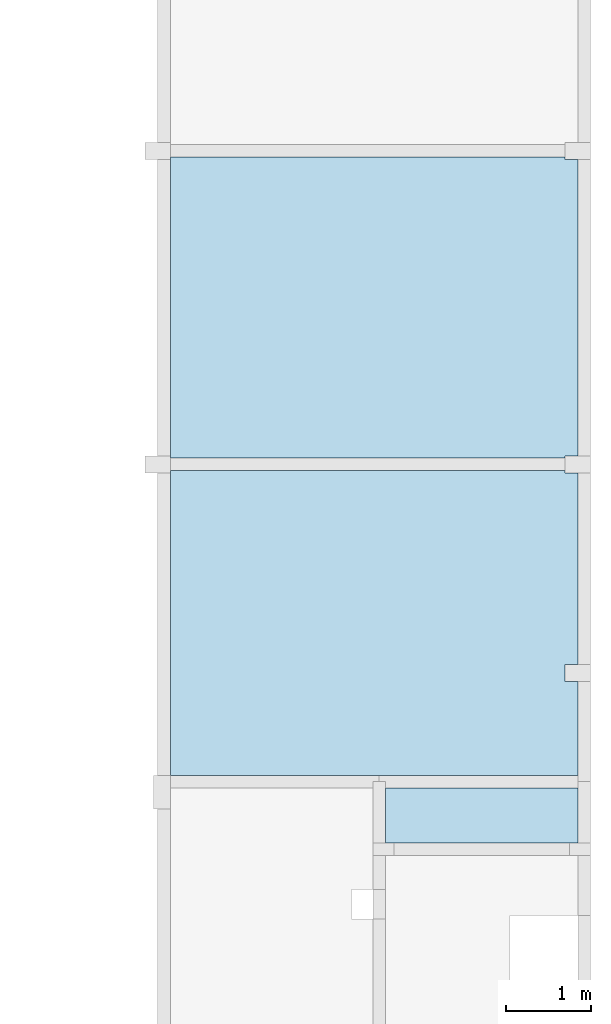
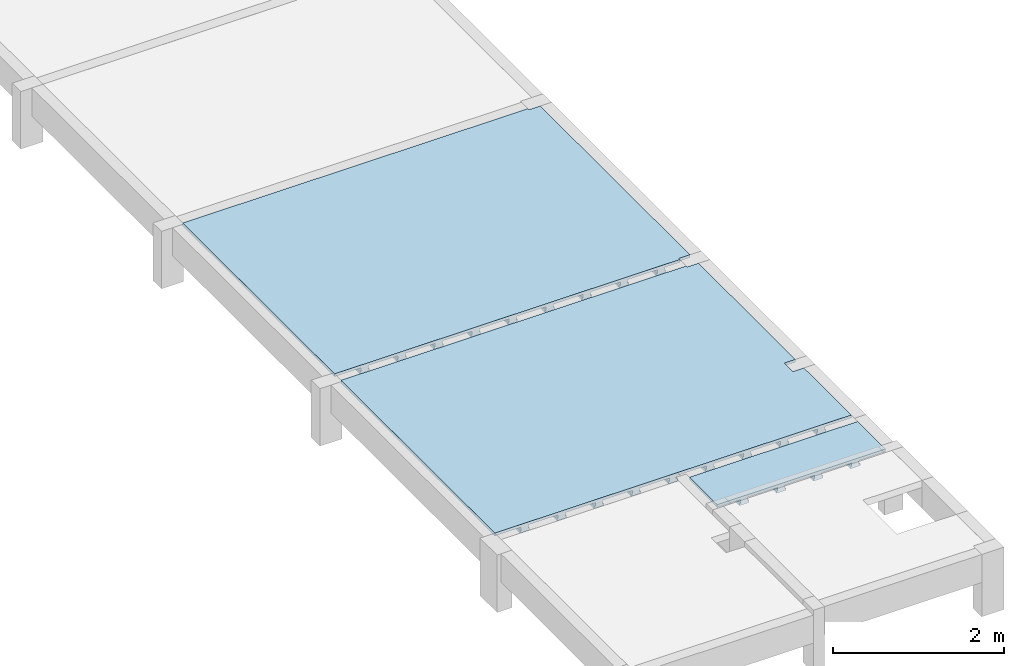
# One storey, part 2 of 3: 3 slabs.
"""IFC4 building model written with IfcOpenShell, lengths in centimetres."""

from ifc_helpers import new_model, si_unit, derived_unit, frame, origin_with_axes, place, context, project, spatial, polyline, outline, extrude, faceted_brep, material, element, save


model = new_model("IFC4")

# Units and contexts
model_context = context("Model", 3, precision=1e-05, world=origin_with_axes(), identifier="Body")
ifc_project = project(units=[si_unit("LENGTHUNIT", "METRE", prefix="CENTI"), si_unit("VOLUMEUNIT", "CUBIC_METRE"), si_unit("AREAUNIT", "SQUARE_METRE"), si_unit("POWERUNIT", "WATT"), si_unit("LUMINOUSFLUXUNIT", "LUMEN"), si_unit("ELECTRICCURRENTUNIT", "AMPERE"), si_unit("PRESSUREUNIT", "PASCAL", prefix="KILO"), si_unit("MASSUNIT", "GRAM", prefix="KILO"), si_unit("PLANEANGLEUNIT", "RADIAN"), derived_unit("VOLUMETRICFLOWRATEUNIT", [(si_unit("LENGTHUNIT", "METRE"), 3), (si_unit("TIMEUNIT", "SECOND"), -1)])], contexts=[model_context])

# Site, building, storey
site_placement = place(None, origin_with_axes())
site = spatial("IfcSite", under=ifc_project, at=site_placement)
building_placement = place(site_placement, frame((0.0, 0.0, -295.0)))
building = spatial("IfcBuilding", under=site, at=building_placement)
placement_1 = place(building_placement, origin_with_axes())
placement_2 = place(placement_1, frame((0.0, 0.0, 101.0), z_axis=(0.0, 0.0, 1.0), x_axis=(1.0, 0.0, 0.0)))
placement_3 = place(placement_2, frame((0.0, 0.0, 204.0), z_axis=(0.0, 0.0, 1.0), x_axis=(1.0, 0.0, 0.0)))
placement_4 = place(placement_3, frame((0.0, 0.0, 292.0), z_axis=(0.0, 0.0, 1.0), x_axis=(1.0, 0.0, 0.0)))
placement_5 = place(placement_4, frame((0.0, 0.0, 302.0), z_axis=(0.0, 0.0, 1.0), x_axis=(1.0, 0.0, 0.0)))
placement_6 = place(placement_5, frame((0.0, 0.0, 326.0), z_axis=(0.0, 0.0, 1.0), x_axis=(1.0, 0.0, 0.0)))
storey_placement = place(placement_6, frame((0.0, 0.0, 124.0), z_axis=(0.0, 0.0, 1.0), x_axis=(1.0, 0.0, 0.0)))
storey = spatial("IfcBuildingStorey", under=building, at=storey_placement, Name="TELHADO CINE", CompositionType="ELEMENT", Elevation=1054.0)

# Slabs
ifc_material = material(Name="Concreto")
slab_1_placement = place(storey_placement, frame((3761.245, -5953.5495, -42.0), z_axis=(0.0, 0.0, 1.0), x_axis=(1.0, 0.0, 0.0)))
element("IfcSlab", 1, at=slab_1_placement, inside=storey, material=ifc_material, Name="L403", PredefinedType="FLOOR", context=model_context, shape_type="SolidModel", body=[
    extrude(outline(polyline([(225.515, -175.0), (240.515, -175.0), (240.514, 174.999), (225.515, 174.999), (225.515, 177.499), (-240.515, 177.5), (-240.514, -177.499), (225.514, -177.499), (225.515, -175.0), (225.515, -175.0)])), frame((0.0, -0.0005, -4.0), z_axis=(0.0, 0.0, 1.0), x_axis=(1.0, 0.0, 0.0)), (0.0, 0.0, 1.0), 4.0),
    faceted_brep([(-5.0, -177.4995, -12.0), (-5.0, 177.499, -12.0), (5.0, 177.499, -12.0), (5.0, -177.4995, -12.0), (5.0, -177.4995, -4.0), (5.0, 177.499, -4.0), (-5.0, 177.499, -4.0), (-5.0, -177.4995, -4.0)], [[[0, 1, 2, 3]], [[4, 5, 6, 7]], [[4, 3, 5]], [[3, 2, 5]], [[5, 2, 6]], [[2, 1, 6]], [[6, 1, 7]], [[1, 0, 7]], [[7, 0, 4]], [[0, 3, 4]]]),
    faceted_brep([(-6.5, -177.4995, -12.0), (-6.5, 177.499, -12.0), (-5.0, 177.499, -12.0), (-5.0, -177.4995, -12.0), (-5.0, -177.4995, -9.0), (-5.0, 177.499, -9.0), (-6.5, 177.499, -9.0), (-6.5, -177.4995, -9.0)], [[[0, 1, 2, 3]], [[4, 5, 6, 7]], [[4, 3, 5]], [[3, 2, 5]], [[5, 2, 6]], [[2, 1, 6]], [[6, 1, 7]], [[1, 0, 7]], [[7, 0, 4]], [[0, 3, 4]]]),
    faceted_brep([(5.0, -177.4995, -12.0), (5.0, 177.499, -12.0), (6.5, 177.499, -12.0), (6.5, -177.4995, -12.0), (6.5, -177.4995, -9.0), (6.5, 177.499, -9.0), (5.0, 177.499, -9.0), (5.0, -177.4995, -9.0)], [[[0, 1, 2, 3]], [[4, 5, 6, 7]], [[4, 3, 5]], [[3, 2, 5]], [[5, 2, 6]], [[2, 1, 6]], [[6, 1, 7]], [[1, 0, 7]], [[7, 0, 4]], [[0, 3, 4]]]),
    faceted_brep([(-55.0, -177.4995, -12.0), (-55.0, 177.499, -12.0), (-45.0, 177.499, -12.0), (-45.0, -177.4995, -12.0), (-45.0, -177.4995, -4.0), (-45.0, 177.499, -4.0), (-55.0, 177.499, -4.0), (-55.0, -177.4995, -4.0)], [[[0, 1, 2, 3]], [[4, 5, 6, 7]], [[4, 3, 5]], [[3, 2, 5]], [[5, 2, 6]], [[2, 1, 6]], [[6, 1, 7]], [[1, 0, 7]], [[7, 0, 4]], [[0, 3, 4]]]),
    faceted_brep([(-56.5, -177.4995, -12.0), (-56.5, 177.499, -12.0), (-55.0, 177.499, -12.0), (-55.0, -177.4995, -12.0), (-55.0, -177.4995, -9.0), (-55.0, 177.499, -9.0), (-56.5, 177.499, -9.0), (-56.5, -177.4995, -9.0)], [[[0, 1, 2, 3]], [[4, 5, 6, 7]], [[4, 3, 5]], [[3, 2, 5]], [[5, 2, 6]], [[2, 1, 6]], [[6, 1, 7]], [[1, 0, 7]], [[7, 0, 4]], [[0, 3, 4]]]),
    faceted_brep([(-45.0, -177.4995, -12.0), (-45.0, 177.499, -12.0), (-43.5, 177.499, -12.0), (-43.5, -177.4995, -12.0), (-43.5, -177.4995, -9.0), (-43.5, 177.499, -9.0), (-45.0, 177.499, -9.0), (-45.0, -177.4995, -9.0)], [[[0, 1, 2, 3]], [[4, 5, 6, 7]], [[4, 3, 5]], [[3, 2, 5]], [[5, 2, 6]], [[2, 1, 6]], [[6, 1, 7]], [[1, 0, 7]], [[7, 0, 4]], [[0, 3, 4]]]),
    faceted_brep([(-105.0, -177.4995, -12.0), (-105.0, 177.499, -12.0), (-95.0, 177.499, -12.0), (-95.0, -177.4995, -12.0), (-95.0, -177.4995, -4.0), (-95.0, 177.499, -4.0), (-105.0, 177.499, -4.0), (-105.0, -177.4995, -4.0)], [[[0, 1, 2, 3]], [[4, 5, 6, 7]], [[4, 3, 5]], [[3, 2, 5]], [[5, 2, 6]], [[2, 1, 6]], [[6, 1, 7]], [[1, 0, 7]], [[7, 0, 4]], [[0, 3, 4]]]),
    faceted_brep([(-106.5, -177.4995, -12.0), (-106.5, 177.499, -12.0), (-105.0, 177.499, -12.0), (-105.0, -177.4995, -12.0), (-105.0, -177.4995, -9.0), (-105.0, 177.499, -9.0), (-106.5, 177.499, -9.0), (-106.5, -177.4995, -9.0)], [[[0, 1, 2, 3]], [[4, 5, 6, 7]], [[4, 3, 5]], [[3, 2, 5]], [[5, 2, 6]], [[2, 1, 6]], [[6, 1, 7]], [[1, 0, 7]], [[7, 0, 4]], [[0, 3, 4]]]),
    faceted_brep([(-95.0, -177.4995, -12.0), (-95.0, 177.499, -12.0), (-93.5, 177.499, -12.0), (-93.5, -177.4995, -12.0), (-93.5, -177.4995, -9.0), (-93.5, 177.499, -9.0), (-95.0, 177.499, -9.0), (-95.0, -177.4995, -9.0)], [[[0, 1, 2, 3]], [[4, 5, 6, 7]], [[4, 3, 5]], [[3, 2, 5]], [[5, 2, 6]], [[2, 1, 6]], [[6, 1, 7]], [[1, 0, 7]], [[7, 0, 4]], [[0, 3, 4]]]),
    faceted_brep([(-155.0, -177.4995, -12.0), (-155.0, 177.499, -12.0), (-145.0, 177.499, -12.0), (-145.0, -177.4995, -12.0), (-145.0, -177.4995, -4.0), (-145.0, 177.499, -4.0), (-155.0, 177.499, -4.0), (-155.0, -177.4995, -4.0)], [[[0, 1, 2, 3]], [[4, 5, 6, 7]], [[4, 3, 5]], [[3, 2, 5]], [[5, 2, 6]], [[2, 1, 6]], [[6, 1, 7]], [[1, 0, 7]], [[7, 0, 4]], [[0, 3, 4]]]),
    faceted_brep([(-156.5, -177.4995, -12.0), (-156.5, 177.499, -12.0), (-155.0, 177.499, -12.0), (-155.0, -177.4995, -12.0), (-155.0, -177.4995, -9.0), (-155.0, 177.499, -9.0), (-156.5, 177.499, -9.0), (-156.5, -177.4995, -9.0)], [[[0, 1, 2, 3]], [[4, 5, 6, 7]], [[4, 3, 5]], [[3, 2, 5]], [[5, 2, 6]], [[2, 1, 6]], [[6, 1, 7]], [[1, 0, 7]], [[7, 0, 4]], [[0, 3, 4]]]),
    faceted_brep([(-145.0, -177.4995, -12.0), (-145.0, 177.499, -12.0), (-143.5, 177.499, -12.0), (-143.5, -177.4995, -12.0), (-143.5, -177.4995, -9.0), (-143.5, 177.499, -9.0), (-145.0, 177.499, -9.0), (-145.0, -177.4995, -9.0)], [[[0, 1, 2, 3]], [[4, 5, 6, 7]], [[4, 3, 5]], [[3, 2, 5]], [[5, 2, 6]], [[2, 1, 6]], [[6, 1, 7]], [[1, 0, 7]], [[7, 0, 4]], [[0, 3, 4]]]),
    faceted_brep([(-205.0, -177.4995, -12.0), (-205.0, 177.499, -12.0), (-195.0, 177.499, -12.0), (-195.0, -177.4995, -12.0), (-195.0, -177.4995, -4.0), (-195.0, 177.499, -4.0), (-205.0, 177.499, -4.0), (-205.0, -177.4995, -4.0)], [[[0, 1, 2, 3]], [[4, 5, 6, 7]], [[4, 3, 5]], [[3, 2, 5]], [[5, 2, 6]], [[2, 1, 6]], [[6, 1, 7]], [[1, 0, 7]], [[7, 0, 4]], [[0, 3, 4]]]),
    faceted_brep([(-206.5, -177.4995, -12.0), (-206.5, 177.499, -12.0), (-205.0, 177.499, -12.0), (-205.0, -177.4995, -12.0), (-205.0, -177.4995, -9.0), (-205.0, 177.499, -9.0), (-206.5, 177.499, -9.0), (-206.5, -177.4995, -9.0)], [[[0, 1, 2, 3]], [[4, 5, 6, 7]], [[4, 3, 5]], [[3, 2, 5]], [[5, 2, 6]], [[2, 1, 6]], [[6, 1, 7]], [[1, 0, 7]], [[7, 0, 4]], [[0, 3, 4]]]),
    faceted_brep([(-195.0, -177.4995, -12.0), (-195.0, 177.499, -12.0), (-193.5, 177.499, -12.0), (-193.5, -177.4995, -12.0), (-193.5, -177.4995, -9.0), (-193.5, 177.499, -9.0), (-195.0, 177.499, -9.0), (-195.0, -177.4995, -9.0)], [[[0, 1, 2, 3]], [[4, 5, 6, 7]], [[4, 3, 5]], [[3, 2, 5]], [[5, 2, 6]], [[2, 1, 6]], [[6, 1, 7]], [[1, 0, 7]], [[7, 0, 4]], [[0, 3, 4]]]),
    faceted_brep([(45.0, -177.4995, -12.0), (45.0, 177.499, -12.0), (55.0, 177.499, -12.0), (55.0, -177.4995, -12.0), (55.0, -177.4995, -4.0), (55.0, 177.499, -4.0), (45.0, 177.499, -4.0), (45.0, -177.4995, -4.0)], [[[0, 1, 2, 3]], [[4, 5, 6, 7]], [[4, 3, 5]], [[3, 2, 5]], [[5, 2, 6]], [[2, 1, 6]], [[6, 1, 7]], [[1, 0, 7]], [[7, 0, 4]], [[0, 3, 4]]]),
    faceted_brep([(43.5, -177.4995, -12.0), (43.5, 177.499, -12.0), (45.0, 177.499, -12.0), (45.0, -177.4995, -12.0), (45.0, -177.4995, -9.0), (45.0, 177.499, -9.0), (43.5, 177.499, -9.0), (43.5, -177.4995, -9.0)], [[[0, 1, 2, 3]], [[4, 5, 6, 7]], [[4, 3, 5]], [[3, 2, 5]], [[5, 2, 6]], [[2, 1, 6]], [[6, 1, 7]], [[1, 0, 7]], [[7, 0, 4]], [[0, 3, 4]]]),
    faceted_brep([(55.0, -177.4995, -12.0), (55.0, 177.499, -12.0), (56.5, 177.499, -12.0), (56.5, -177.4995, -12.0), (56.5, -177.4995, -9.0), (56.5, 177.499, -9.0), (55.0, 177.499, -9.0), (55.0, -177.4995, -9.0)], [[[0, 1, 2, 3]], [[4, 5, 6, 7]], [[4, 3, 5]], [[3, 2, 5]], [[5, 2, 6]], [[2, 1, 6]], [[6, 1, 7]], [[1, 0, 7]], [[7, 0, 4]], [[0, 3, 4]]]),
    faceted_brep([(95.0, -177.4995, -12.0), (95.0, 177.499, -12.0), (105.0, 177.499, -12.0), (105.0, -177.4995, -12.0), (105.0, -177.4995, -4.0), (105.0, 177.499, -4.0), (95.0, 177.499, -4.0), (95.0, -177.4995, -4.0)], [[[0, 1, 2, 3]], [[4, 5, 6, 7]], [[4, 3, 5]], [[3, 2, 5]], [[5, 2, 6]], [[2, 1, 6]], [[6, 1, 7]], [[1, 0, 7]], [[7, 0, 4]], [[0, 3, 4]]]),
    faceted_brep([(93.5, -177.4995, -12.0), (93.5, 177.499, -12.0), (95.0, 177.499, -12.0), (95.0, -177.4995, -12.0), (95.0, -177.4995, -9.0), (95.0, 177.499, -9.0), (93.5, 177.499, -9.0), (93.5, -177.4995, -9.0)], [[[0, 1, 2, 3]], [[4, 5, 6, 7]], [[4, 3, 5]], [[3, 2, 5]], [[5, 2, 6]], [[2, 1, 6]], [[6, 1, 7]], [[1, 0, 7]], [[7, 0, 4]], [[0, 3, 4]]]),
    faceted_brep([(105.0, -177.4995, -12.0), (105.0, 177.499, -12.0), (106.5, 177.499, -12.0), (106.5, -177.4995, -12.0), (106.5, -177.4995, -9.0), (106.5, 177.499, -9.0), (105.0, 177.499, -9.0), (105.0, -177.4995, -9.0)], [[[0, 1, 2, 3]], [[4, 5, 6, 7]], [[4, 3, 5]], [[3, 2, 5]], [[5, 2, 6]], [[2, 1, 6]], [[6, 1, 7]], [[1, 0, 7]], [[7, 0, 4]], [[0, 3, 4]]]),
    faceted_brep([(145.0, -177.4995, -12.0), (145.0, 177.499, -12.0), (155.0, 177.499, -12.0), (155.0, -177.4995, -12.0), (155.0, -177.4995, -4.0), (155.0, 177.499, -4.0), (145.0, 177.499, -4.0), (145.0, -177.4995, -4.0)], [[[0, 1, 2, 3]], [[4, 5, 6, 7]], [[4, 3, 5]], [[3, 2, 5]], [[5, 2, 6]], [[2, 1, 6]], [[6, 1, 7]], [[1, 0, 7]], [[7, 0, 4]], [[0, 3, 4]]]),
    faceted_brep([(143.5, -177.4995, -12.0), (143.5, 177.499, -12.0), (145.0, 177.499, -12.0), (145.0, -177.4995, -12.0), (145.0, -177.4995, -9.0), (145.0, 177.499, -9.0), (143.5, 177.499, -9.0), (143.5, -177.4995, -9.0)], [[[0, 1, 2, 3]], [[4, 5, 6, 7]], [[4, 3, 5]], [[3, 2, 5]], [[5, 2, 6]], [[2, 1, 6]], [[6, 1, 7]], [[1, 0, 7]], [[7, 0, 4]], [[0, 3, 4]]]),
    faceted_brep([(155.0, -177.4995, -12.0), (155.0, 177.499, -12.0), (156.5, 177.499, -12.0), (156.5, -177.4995, -12.0), (156.5, -177.4995, -9.0), (156.5, 177.499, -9.0), (155.0, 177.499, -9.0), (155.0, -177.4995, -9.0)], [[[0, 1, 2, 3]], [[4, 5, 6, 7]], [[4, 3, 5]], [[3, 2, 5]], [[5, 2, 6]], [[2, 1, 6]], [[6, 1, 7]], [[1, 0, 7]], [[7, 0, 4]], [[0, 3, 4]]]),
    faceted_brep([(195.0, -177.4995, -12.0), (195.0, 177.499, -12.0), (205.0, 177.499, -12.0), (205.0, -177.4995, -12.0), (205.0, -177.4995, -4.0), (205.0, 177.499, -4.0), (195.0, 177.499, -4.0), (195.0, -177.4995, -4.0)], [[[0, 1, 2, 3]], [[4, 5, 6, 7]], [[4, 3, 5]], [[3, 2, 5]], [[5, 2, 6]], [[2, 1, 6]], [[6, 1, 7]], [[1, 0, 7]], [[7, 0, 4]], [[0, 3, 4]]]),
    faceted_brep([(193.5, -177.4995, -12.0), (193.5, 177.499, -12.0), (195.0, 177.499, -12.0), (195.0, -177.4995, -12.0), (195.0, -177.4995, -9.0), (195.0, 177.499, -9.0), (193.5, 177.499, -9.0), (193.5, -177.4995, -9.0)], [[[0, 1, 2, 3]], [[4, 5, 6, 7]], [[4, 3, 5]], [[3, 2, 5]], [[5, 2, 6]], [[2, 1, 6]], [[6, 1, 7]], [[1, 0, 7]], [[7, 0, 4]], [[0, 3, 4]]]),
    faceted_brep([(205.0, -177.4995, -12.0), (205.0, 177.499, -12.0), (206.5, 177.499, -12.0), (206.5, -177.4995, -12.0), (206.5, -177.4995, -9.0), (206.5, 177.499, -9.0), (205.0, 177.499, -9.0), (205.0, -177.4995, -9.0)], [[[0, 1, 2, 3]], [[4, 5, 6, 7]], [[4, 3, 5]], [[3, 2, 5]], [[5, 2, 6]], [[2, 1, 6]], [[6, 1, 7]], [[1, 0, 7]], [[7, 0, 4]], [[0, 3, 4]]]),
])
slab_2_placement = place(storey_placement, frame((3761.2455, -6325.8, -42.0), z_axis=(0.0, 0.0, 1.0), x_axis=(1.0, 0.0, 0.0)))
element("IfcSlab", 2, at=slab_2_placement, inside=storey, material=ifc_material, Name="L404", PredefinedType="FLOOR", context=model_context, shape_type="SolidModel", body=[
    extrude(outline(polyline([(240.515, -68.849), (225.515, -68.849), (225.515, -48.849), (240.515, -48.85), (240.515, 177.249), (225.515, 177.249), (225.514, 179.749), (-240.514, 179.75), (-240.514, -179.75), (240.514, -179.75), (240.515, -68.849), (240.515, -68.849)])), frame((-0.0005, 0.0, -4.0), z_axis=(0.0, 0.0, 1.0), x_axis=(1.0, 0.0, 0.0)), (0.0, 0.0, 1.0), 4.0),
    faceted_brep([(-5.0005, -179.75, -12.0), (-5.0005, 179.7495, -12.0), (4.9995, 179.7495, -12.0), (4.9995, -179.75, -12.0), (4.9995, -179.75, -4.0), (4.9995, 179.7495, -4.0), (-5.0005, 179.7495, -4.0), (-5.0005, -179.75, -4.0)], [[[0, 1, 2, 3]], [[4, 5, 6, 7]], [[4, 3, 5]], [[3, 2, 5]], [[5, 2, 6]], [[2, 1, 6]], [[6, 1, 7]], [[1, 0, 7]], [[7, 0, 4]], [[0, 3, 4]]]),
    faceted_brep([(-6.5005, -179.75, -12.0), (-6.5005, 179.7495, -12.0), (-5.0005, 179.7495, -12.0), (-5.0005, -179.75, -12.0), (-5.0005, -179.75, -9.0), (-5.0005, 179.7495, -9.0), (-6.5005, 179.7495, -9.0), (-6.5005, -179.75, -9.0)], [[[0, 1, 2, 3]], [[4, 5, 6, 7]], [[4, 3, 5]], [[3, 2, 5]], [[5, 2, 6]], [[2, 1, 6]], [[6, 1, 7]], [[1, 0, 7]], [[7, 0, 4]], [[0, 3, 4]]]),
    faceted_brep([(4.9995, -179.75, -12.0), (4.9995, 179.7495, -12.0), (6.4995, 179.7495, -12.0), (6.4995, -179.75, -12.0), (6.4995, -179.75, -9.0), (6.4995, 179.7495, -9.0), (4.9995, 179.7495, -9.0), (4.9995, -179.75, -9.0)], [[[0, 1, 2, 3]], [[4, 5, 6, 7]], [[4, 3, 5]], [[3, 2, 5]], [[5, 2, 6]], [[2, 1, 6]], [[6, 1, 7]], [[1, 0, 7]], [[7, 0, 4]], [[0, 3, 4]]]),
    faceted_brep([(-55.0005, -179.75, -12.0), (-55.0005, 179.7495, -12.0), (-45.0005, 179.7495, -12.0), (-45.0005, -179.75, -12.0), (-45.0005, -179.75, -4.0), (-45.0005, 179.7495, -4.0), (-55.0005, 179.7495, -4.0), (-55.0005, -179.75, -4.0)], [[[0, 1, 2, 3]], [[4, 5, 6, 7]], [[4, 3, 5]], [[3, 2, 5]], [[5, 2, 6]], [[2, 1, 6]], [[6, 1, 7]], [[1, 0, 7]], [[7, 0, 4]], [[0, 3, 4]]]),
    faceted_brep([(-56.5005, -179.75, -12.0), (-56.5005, 179.7495, -12.0), (-55.0005, 179.7495, -12.0), (-55.0005, -179.75, -12.0), (-55.0005, -179.75, -9.0), (-55.0005, 179.7495, -9.0), (-56.5005, 179.7495, -9.0), (-56.5005, -179.75, -9.0)], [[[0, 1, 2, 3]], [[4, 5, 6, 7]], [[4, 3, 5]], [[3, 2, 5]], [[5, 2, 6]], [[2, 1, 6]], [[6, 1, 7]], [[1, 0, 7]], [[7, 0, 4]], [[0, 3, 4]]]),
    faceted_brep([(-45.0005, -179.75, -12.0), (-45.0005, 179.7495, -12.0), (-43.5005, 179.7495, -12.0), (-43.5005, -179.75, -12.0), (-43.5005, -179.75, -9.0), (-43.5005, 179.7495, -9.0), (-45.0005, 179.7495, -9.0), (-45.0005, -179.75, -9.0)], [[[0, 1, 2, 3]], [[4, 5, 6, 7]], [[4, 3, 5]], [[3, 2, 5]], [[5, 2, 6]], [[2, 1, 6]], [[6, 1, 7]], [[1, 0, 7]], [[7, 0, 4]], [[0, 3, 4]]]),
    faceted_brep([(-105.0005, -179.75, -12.0), (-105.0005, 179.7495, -12.0), (-95.0005, 179.7495, -12.0), (-95.0005, -179.75, -12.0), (-95.0005, -179.75, -4.0), (-95.0005, 179.7495, -4.0), (-105.0005, 179.7495, -4.0), (-105.0005, -179.75, -4.0)], [[[0, 1, 2, 3]], [[4, 5, 6, 7]], [[4, 3, 5]], [[3, 2, 5]], [[5, 2, 6]], [[2, 1, 6]], [[6, 1, 7]], [[1, 0, 7]], [[7, 0, 4]], [[0, 3, 4]]]),
    faceted_brep([(-106.5005, -179.75, -12.0), (-106.5005, 179.7495, -12.0), (-105.0005, 179.7495, -12.0), (-105.0005, -179.75, -12.0), (-105.0005, -179.75, -9.0), (-105.0005, 179.7495, -9.0), (-106.5005, 179.7495, -9.0), (-106.5005, -179.75, -9.0)], [[[0, 1, 2, 3]], [[4, 5, 6, 7]], [[4, 3, 5]], [[3, 2, 5]], [[5, 2, 6]], [[2, 1, 6]], [[6, 1, 7]], [[1, 0, 7]], [[7, 0, 4]], [[0, 3, 4]]]),
    faceted_brep([(-95.0005, -179.75, -12.0), (-95.0005, 179.7495, -12.0), (-93.5005, 179.7495, -12.0), (-93.5005, -179.75, -12.0), (-93.5005, -179.75, -9.0), (-93.5005, 179.7495, -9.0), (-95.0005, 179.7495, -9.0), (-95.0005, -179.75, -9.0)], [[[0, 1, 2, 3]], [[4, 5, 6, 7]], [[4, 3, 5]], [[3, 2, 5]], [[5, 2, 6]], [[2, 1, 6]], [[6, 1, 7]], [[1, 0, 7]], [[7, 0, 4]], [[0, 3, 4]]]),
    faceted_brep([(-155.0005, -179.75, -12.0), (-155.0005, 179.7495, -12.0), (-145.0005, 179.7495, -12.0), (-145.0005, -179.75, -12.0), (-145.0005, -179.75, -4.0), (-145.0005, 179.7495, -4.0), (-155.0005, 179.7495, -4.0), (-155.0005, -179.75, -4.0)], [[[0, 1, 2, 3]], [[4, 5, 6, 7]], [[4, 3, 5]], [[3, 2, 5]], [[5, 2, 6]], [[2, 1, 6]], [[6, 1, 7]], [[1, 0, 7]], [[7, 0, 4]], [[0, 3, 4]]]),
    faceted_brep([(-156.5005, -179.75, -12.0), (-156.5005, 179.7495, -12.0), (-155.0005, 179.7495, -12.0), (-155.0005, -179.75, -12.0), (-155.0005, -179.75, -9.0), (-155.0005, 179.7495, -9.0), (-156.5005, 179.7495, -9.0), (-156.5005, -179.75, -9.0)], [[[0, 1, 2, 3]], [[4, 5, 6, 7]], [[4, 3, 5]], [[3, 2, 5]], [[5, 2, 6]], [[2, 1, 6]], [[6, 1, 7]], [[1, 0, 7]], [[7, 0, 4]], [[0, 3, 4]]]),
    faceted_brep([(-145.0005, -179.75, -12.0), (-145.0005, 179.7495, -12.0), (-143.5005, 179.7495, -12.0), (-143.5005, -179.75, -12.0), (-143.5005, -179.75, -9.0), (-143.5005, 179.7495, -9.0), (-145.0005, 179.7495, -9.0), (-145.0005, -179.75, -9.0)], [[[0, 1, 2, 3]], [[4, 5, 6, 7]], [[4, 3, 5]], [[3, 2, 5]], [[5, 2, 6]], [[2, 1, 6]], [[6, 1, 7]], [[1, 0, 7]], [[7, 0, 4]], [[0, 3, 4]]]),
    faceted_brep([(-205.0005, -179.75, -12.0), (-205.0005, 179.7495, -12.0), (-195.0005, 179.7495, -12.0), (-195.0005, -179.75, -12.0), (-195.0005, -179.75, -4.0), (-195.0005, 179.7495, -4.0), (-205.0005, 179.7495, -4.0), (-205.0005, -179.75, -4.0)], [[[0, 1, 2, 3]], [[4, 5, 6, 7]], [[4, 3, 5]], [[3, 2, 5]], [[5, 2, 6]], [[2, 1, 6]], [[6, 1, 7]], [[1, 0, 7]], [[7, 0, 4]], [[0, 3, 4]]]),
    faceted_brep([(-206.5005, -179.75, -12.0), (-206.5005, 179.7495, -12.0), (-205.0005, 179.7495, -12.0), (-205.0005, -179.75, -12.0), (-205.0005, -179.75, -9.0), (-205.0005, 179.7495, -9.0), (-206.5005, 179.7495, -9.0), (-206.5005, -179.75, -9.0)], [[[0, 1, 2, 3]], [[4, 5, 6, 7]], [[4, 3, 5]], [[3, 2, 5]], [[5, 2, 6]], [[2, 1, 6]], [[6, 1, 7]], [[1, 0, 7]], [[7, 0, 4]], [[0, 3, 4]]]),
    faceted_brep([(-195.0005, -179.75, -12.0), (-195.0005, 179.7495, -12.0), (-193.5005, 179.7495, -12.0), (-193.5005, -179.75, -12.0), (-193.5005, -179.75, -9.0), (-193.5005, 179.7495, -9.0), (-195.0005, 179.7495, -9.0), (-195.0005, -179.75, -9.0)], [[[0, 1, 2, 3]], [[4, 5, 6, 7]], [[4, 3, 5]], [[3, 2, 5]], [[5, 2, 6]], [[2, 1, 6]], [[6, 1, 7]], [[1, 0, 7]], [[7, 0, 4]], [[0, 3, 4]]]),
    faceted_brep([(44.9995, -179.75, -12.0), (44.9995, 179.7495, -12.0), (54.9995, 179.7495, -12.0), (54.9995, -179.75, -12.0), (54.9995, -179.75, -4.0), (54.9995, 179.7495, -4.0), (44.9995, 179.7495, -4.0), (44.9995, -179.75, -4.0)], [[[0, 1, 2, 3]], [[4, 5, 6, 7]], [[4, 3, 5]], [[3, 2, 5]], [[5, 2, 6]], [[2, 1, 6]], [[6, 1, 7]], [[1, 0, 7]], [[7, 0, 4]], [[0, 3, 4]]]),
    faceted_brep([(43.4995, -179.75, -12.0), (43.4995, 179.7495, -12.0), (44.9995, 179.7495, -12.0), (44.9995, -179.75, -12.0), (44.9995, -179.75, -9.0), (44.9995, 179.7495, -9.0), (43.4995, 179.7495, -9.0), (43.4995, -179.75, -9.0)], [[[0, 1, 2, 3]], [[4, 5, 6, 7]], [[4, 3, 5]], [[3, 2, 5]], [[5, 2, 6]], [[2, 1, 6]], [[6, 1, 7]], [[1, 0, 7]], [[7, 0, 4]], [[0, 3, 4]]]),
    faceted_brep([(54.9995, -179.75, -12.0), (54.9995, 179.7495, -12.0), (56.4995, 179.7495, -12.0), (56.4995, -179.75, -12.0), (56.4995, -179.75, -9.0), (56.4995, 179.7495, -9.0), (54.9995, 179.7495, -9.0), (54.9995, -179.75, -9.0)], [[[0, 1, 2, 3]], [[4, 5, 6, 7]], [[4, 3, 5]], [[3, 2, 5]], [[5, 2, 6]], [[2, 1, 6]], [[6, 1, 7]], [[1, 0, 7]], [[7, 0, 4]], [[0, 3, 4]]]),
    faceted_brep([(94.9995, -179.75, -12.0), (94.9995, 179.7495, -12.0), (104.9995, 179.7495, -12.0), (104.9995, -179.75, -12.0), (104.9995, -179.75, -4.0), (104.9995, 179.7495, -4.0), (94.9995, 179.7495, -4.0), (94.9995, -179.75, -4.0)], [[[0, 1, 2, 3]], [[4, 5, 6, 7]], [[4, 3, 5]], [[3, 2, 5]], [[5, 2, 6]], [[2, 1, 6]], [[6, 1, 7]], [[1, 0, 7]], [[7, 0, 4]], [[0, 3, 4]]]),
    faceted_brep([(93.4995, -179.75, -12.0), (93.4995, 179.7495, -12.0), (94.9995, 179.7495, -12.0), (94.9995, -179.75, -12.0), (94.9995, -179.75, -9.0), (94.9995, 179.7495, -9.0), (93.4995, 179.7495, -9.0), (93.4995, -179.75, -9.0)], [[[0, 1, 2, 3]], [[4, 5, 6, 7]], [[4, 3, 5]], [[3, 2, 5]], [[5, 2, 6]], [[2, 1, 6]], [[6, 1, 7]], [[1, 0, 7]], [[7, 0, 4]], [[0, 3, 4]]]),
    faceted_brep([(104.9995, -179.75, -12.0), (104.9995, 179.7495, -12.0), (106.4995, 179.7495, -12.0), (106.4995, -179.75, -12.0), (106.4995, -179.75, -9.0), (106.4995, 179.7495, -9.0), (104.9995, 179.7495, -9.0), (104.9995, -179.75, -9.0)], [[[0, 1, 2, 3]], [[4, 5, 6, 7]], [[4, 3, 5]], [[3, 2, 5]], [[5, 2, 6]], [[2, 1, 6]], [[6, 1, 7]], [[1, 0, 7]], [[7, 0, 4]], [[0, 3, 4]]]),
    faceted_brep([(144.9995, -179.75, -12.0), (144.9995, 179.7495, -12.0), (154.9995, 179.7495, -12.0), (154.9995, -179.75, -12.0), (154.9995, -179.75, -4.0), (154.9995, 179.7495, -4.0), (144.9995, 179.7495, -4.0), (144.9995, -179.75, -4.0)], [[[0, 1, 2, 3]], [[4, 5, 6, 7]], [[4, 3, 5]], [[3, 2, 5]], [[5, 2, 6]], [[2, 1, 6]], [[6, 1, 7]], [[1, 0, 7]], [[7, 0, 4]], [[0, 3, 4]]]),
    faceted_brep([(143.4995, -179.75, -12.0), (143.4995, 179.7495, -12.0), (144.9995, 179.7495, -12.0), (144.9995, -179.75, -12.0), (144.9995, -179.75, -9.0), (144.9995, 179.7495, -9.0), (143.4995, 179.7495, -9.0), (143.4995, -179.75, -9.0)], [[[0, 1, 2, 3]], [[4, 5, 6, 7]], [[4, 3, 5]], [[3, 2, 5]], [[5, 2, 6]], [[2, 1, 6]], [[6, 1, 7]], [[1, 0, 7]], [[7, 0, 4]], [[0, 3, 4]]]),
    faceted_brep([(154.9995, -179.75, -12.0), (154.9995, 179.7495, -12.0), (156.4995, 179.7495, -12.0), (156.4995, -179.75, -12.0), (156.4995, -179.75, -9.0), (156.4995, 179.7495, -9.0), (154.9995, 179.7495, -9.0), (154.9995, -179.75, -9.0)], [[[0, 1, 2, 3]], [[4, 5, 6, 7]], [[4, 3, 5]], [[3, 2, 5]], [[5, 2, 6]], [[2, 1, 6]], [[6, 1, 7]], [[1, 0, 7]], [[7, 0, 4]], [[0, 3, 4]]]),
    faceted_brep([(194.9995, -179.75, -12.0), (194.9995, 179.7495, -12.0), (204.9995, 179.7495, -12.0), (204.9995, -179.75, -12.0), (204.9995, -179.75, -4.0), (204.9995, 179.7495, -4.0), (194.9995, 179.7495, -4.0), (194.9995, -179.75, -4.0)], [[[0, 1, 2, 3]], [[4, 5, 6, 7]], [[4, 3, 5]], [[3, 2, 5]], [[5, 2, 6]], [[2, 1, 6]], [[6, 1, 7]], [[1, 0, 7]], [[7, 0, 4]], [[0, 3, 4]]]),
    faceted_brep([(193.4995, -179.75, -12.0), (193.4995, 179.7495, -12.0), (194.9995, 179.7495, -12.0), (194.9995, -179.75, -12.0), (194.9995, -179.75, -9.0), (194.9995, 179.7495, -9.0), (193.4995, 179.7495, -9.0), (193.4995, -179.75, -9.0)], [[[0, 1, 2, 3]], [[4, 5, 6, 7]], [[4, 3, 5]], [[3, 2, 5]], [[5, 2, 6]], [[2, 1, 6]], [[6, 1, 7]], [[1, 0, 7]], [[7, 0, 4]], [[0, 3, 4]]]),
    faceted_brep([(204.9995, -179.75, -12.0), (204.9995, 179.7495, -12.0), (206.4995, 179.7495, -12.0), (206.4995, -179.75, -12.0), (206.4995, -179.75, -9.0), (206.4995, 179.7495, -9.0), (204.9995, 179.7495, -9.0), (204.9995, -179.75, -9.0)], [[[0, 1, 2, 3]], [[4, 5, 6, 7]], [[4, 3, 5]], [[3, 2, 5]], [[5, 2, 6]], [[2, 1, 6]], [[6, 1, 7]], [[1, 0, 7]], [[7, 0, 4]], [[0, 3, 4]]]),
])
slab_3_placement = place(storey_placement, frame((3888.245, -6552.93, -42.0), z_axis=(0.0, 0.0, 1.0), x_axis=(1.0, 0.0, 0.0)))
element("IfcSlab", 3, at=slab_3_placement, inside=storey, material=ifc_material, Name="L406", PredefinedType="FLOOR", context=model_context, shape_type="SolidModel", body=[
    extrude(outline(polyline([(113.515, -32.379), (113.515, 32.38), (-113.515, 32.379), (-113.514, -32.38), (113.515, -32.379), (113.515, -32.379)])), frame((0.0, 0.0, -4.0), z_axis=(0.0, 0.0, 1.0), x_axis=(1.0, 0.0, 0.0)), (0.0, 0.0, 1.0), 4.0),
    faceted_brep([(-82.0, -32.3795, -12.0), (-82.0, 32.3795, -12.0), (-72.0, 32.3795, -12.0), (-72.0, -32.3795, -12.0), (-72.0, -32.3795, -4.0), (-72.0, 32.3795, -4.0), (-82.0, 32.3795, -4.0), (-82.0, -32.3795, -4.0)], [[[0, 1, 2, 3]], [[4, 5, 6, 7]], [[4, 3, 5]], [[3, 2, 5]], [[5, 2, 6]], [[2, 1, 6]], [[6, 1, 7]], [[1, 0, 7]], [[7, 0, 4]], [[0, 3, 4]]]),
    faceted_brep([(-83.5, -32.3795, -12.0), (-83.5, 32.3795, -12.0), (-82.0, 32.3795, -12.0), (-82.0, -32.3795, -12.0), (-82.0, -32.3795, -9.0), (-82.0, 32.3795, -9.0), (-83.5, 32.3795, -9.0), (-83.5, -32.3795, -9.0)], [[[0, 1, 2, 3]], [[4, 5, 6, 7]], [[4, 3, 5]], [[3, 2, 5]], [[5, 2, 6]], [[2, 1, 6]], [[6, 1, 7]], [[1, 0, 7]], [[7, 0, 4]], [[0, 3, 4]]]),
    faceted_brep([(-72.0, -32.3795, -12.0), (-72.0, 32.3795, -12.0), (-70.5, 32.3795, -12.0), (-70.5, -32.3795, -12.0), (-70.5, -32.3795, -9.0), (-70.5, 32.3795, -9.0), (-72.0, 32.3795, -9.0), (-72.0, -32.3795, -9.0)], [[[0, 1, 2, 3]], [[4, 5, 6, 7]], [[4, 3, 5]], [[3, 2, 5]], [[5, 2, 6]], [[2, 1, 6]], [[6, 1, 7]], [[1, 0, 7]], [[7, 0, 4]], [[0, 3, 4]]]),
    faceted_brep([(-32.0, -32.3795, -12.0), (-32.0, 32.3795, -12.0), (-22.0, 32.3795, -12.0), (-22.0, -32.3795, -12.0), (-22.0, -32.3795, -4.0), (-22.0, 32.3795, -4.0), (-32.0, 32.3795, -4.0), (-32.0, -32.3795, -4.0)], [[[0, 1, 2, 3]], [[4, 5, 6, 7]], [[4, 3, 5]], [[3, 2, 5]], [[5, 2, 6]], [[2, 1, 6]], [[6, 1, 7]], [[1, 0, 7]], [[7, 0, 4]], [[0, 3, 4]]]),
    faceted_brep([(-33.5, -32.3795, -12.0), (-33.5, 32.3795, -12.0), (-32.0, 32.3795, -12.0), (-32.0, -32.3795, -12.0), (-32.0, -32.3795, -9.0), (-32.0, 32.3795, -9.0), (-33.5, 32.3795, -9.0), (-33.5, -32.3795, -9.0)], [[[0, 1, 2, 3]], [[4, 5, 6, 7]], [[4, 3, 5]], [[3, 2, 5]], [[5, 2, 6]], [[2, 1, 6]], [[6, 1, 7]], [[1, 0, 7]], [[7, 0, 4]], [[0, 3, 4]]]),
    faceted_brep([(-22.0, -32.3795, -12.0), (-22.0, 32.3795, -12.0), (-20.5, 32.3795, -12.0), (-20.5, -32.3795, -12.0), (-20.5, -32.3795, -9.0), (-20.5, 32.3795, -9.0), (-22.0, 32.3795, -9.0), (-22.0, -32.3795, -9.0)], [[[0, 1, 2, 3]], [[4, 5, 6, 7]], [[4, 3, 5]], [[3, 2, 5]], [[5, 2, 6]], [[2, 1, 6]], [[6, 1, 7]], [[1, 0, 7]], [[7, 0, 4]], [[0, 3, 4]]]),
    faceted_brep([(18.0, -32.3795, -12.0), (18.0, 32.3795, -12.0), (28.0, 32.3795, -12.0), (28.0, -32.3795, -12.0), (28.0, -32.3795, -4.0), (28.0, 32.3795, -4.0), (18.0, 32.3795, -4.0), (18.0, -32.3795, -4.0)], [[[0, 1, 2, 3]], [[4, 5, 6, 7]], [[4, 3, 5]], [[3, 2, 5]], [[5, 2, 6]], [[2, 1, 6]], [[6, 1, 7]], [[1, 0, 7]], [[7, 0, 4]], [[0, 3, 4]]]),
    faceted_brep([(16.5, -32.3795, -12.0), (16.5, 32.3795, -12.0), (18.0, 32.3795, -12.0), (18.0, -32.3795, -12.0), (18.0, -32.3795, -9.0), (18.0, 32.3795, -9.0), (16.5, 32.3795, -9.0), (16.5, -32.3795, -9.0)], [[[0, 1, 2, 3]], [[4, 5, 6, 7]], [[4, 3, 5]], [[3, 2, 5]], [[5, 2, 6]], [[2, 1, 6]], [[6, 1, 7]], [[1, 0, 7]], [[7, 0, 4]], [[0, 3, 4]]]),
    faceted_brep([(28.0, -32.3795, -12.0), (28.0, 32.3795, -12.0), (29.5, 32.3795, -12.0), (29.5, -32.3795, -12.0), (29.5, -32.3795, -9.0), (29.5, 32.3795, -9.0), (28.0, 32.3795, -9.0), (28.0, -32.3795, -9.0)], [[[0, 1, 2, 3]], [[4, 5, 6, 7]], [[4, 3, 5]], [[3, 2, 5]], [[5, 2, 6]], [[2, 1, 6]], [[6, 1, 7]], [[1, 0, 7]], [[7, 0, 4]], [[0, 3, 4]]]),
    faceted_brep([(68.0, -32.3795, -12.0), (68.0, 32.3795, -12.0), (78.0, 32.3795, -12.0), (78.0, -32.3795, -12.0), (78.0, -32.3795, -4.0), (78.0, 32.3795, -4.0), (68.0, 32.3795, -4.0), (68.0, -32.3795, -4.0)], [[[0, 1, 2, 3]], [[4, 5, 6, 7]], [[4, 3, 5]], [[3, 2, 5]], [[5, 2, 6]], [[2, 1, 6]], [[6, 1, 7]], [[1, 0, 7]], [[7, 0, 4]], [[0, 3, 4]]]),
    faceted_brep([(66.5, -32.3795, -12.0), (66.5, 32.3795, -12.0), (68.0, 32.3795, -12.0), (68.0, -32.3795, -12.0), (68.0, -32.3795, -9.0), (68.0, 32.3795, -9.0), (66.5, 32.3795, -9.0), (66.5, -32.3795, -9.0)], [[[0, 1, 2, 3]], [[4, 5, 6, 7]], [[4, 3, 5]], [[3, 2, 5]], [[5, 2, 6]], [[2, 1, 6]], [[6, 1, 7]], [[1, 0, 7]], [[7, 0, 4]], [[0, 3, 4]]]),
    faceted_brep([(78.0, -32.3795, -12.0), (78.0, 32.3795, -12.0), (79.5, 32.3795, -12.0), (79.5, -32.3795, -12.0), (79.5, -32.3795, -9.0), (79.5, 32.3795, -9.0), (78.0, 32.3795, -9.0), (78.0, -32.3795, -9.0)], [[[0, 1, 2, 3]], [[4, 5, 6, 7]], [[4, 3, 5]], [[3, 2, 5]], [[5, 2, 6]], [[2, 1, 6]], [[6, 1, 7]], [[1, 0, 7]], [[7, 0, 4]], [[0, 3, 4]]]),
])

save(model, "model.ifc")
